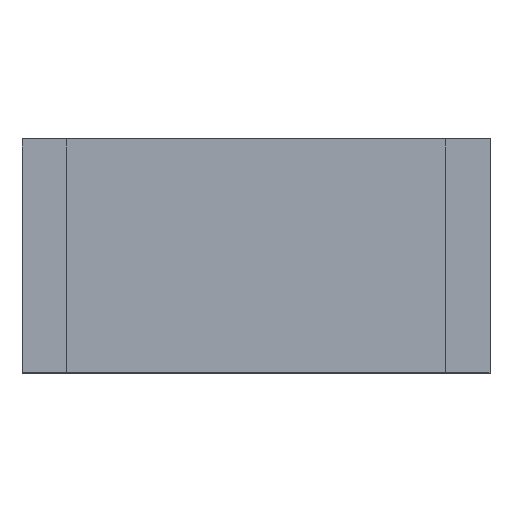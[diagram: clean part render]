
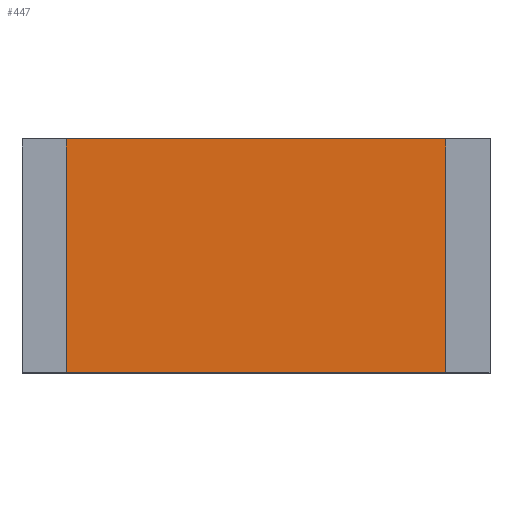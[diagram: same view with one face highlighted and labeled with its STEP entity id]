
A CAD part, top view. The second image highlights one B-rep face of the part: STEP entity #447.
In plain terms, the highlighted planar face has unit normal (0, 0, 1).
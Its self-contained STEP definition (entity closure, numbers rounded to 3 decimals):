
#29=FACE_OUTER_BOUND('',#55,.T.);
#55=EDGE_LOOP('',(#339,#340,#341,#342));
#95=LINE('',#679,#155);
#96=LINE('',#681,#156);
#97=LINE('',#683,#157);
#98=LINE('',#684,#158);
#155=VECTOR('',#559,10.);
#156=VECTOR('',#560,10.);
#157=VECTOR('',#561,10.);
#158=VECTOR('',#562,10.);
#207=VERTEX_POINT('',#677);
#208=VERTEX_POINT('',#678);
#209=VERTEX_POINT('',#680);
#210=VERTEX_POINT('',#682);
#255=EDGE_CURVE('',#207,#208,#95,.T.);
#256=EDGE_CURVE('',#209,#207,#96,.T.);
#257=EDGE_CURVE('',#210,#209,#97,.T.);
#258=EDGE_CURVE('',#208,#210,#98,.T.);
#339=ORIENTED_EDGE('',*,*,#255,.F.);
#340=ORIENTED_EDGE('',*,*,#256,.F.);
#341=ORIENTED_EDGE('',*,*,#257,.F.);
#342=ORIENTED_EDGE('',*,*,#258,.F.);
#421=PLANE('',#495);
#447=ADVANCED_FACE('',(#29),#421,.T.);
#495=AXIS2_PLACEMENT_3D('',#676,#557,#558);
#557=DIRECTION('center_axis',(0.,0.,1.));
#558=DIRECTION('ref_axis',(1.,0.,0.));
#559=DIRECTION('',(1.,0.,0.));
#560=DIRECTION('',(0.,1.,0.));
#561=DIRECTION('',(-1.,0.,0.));
#562=DIRECTION('',(0.,-1.,0.));
#676=CARTESIAN_POINT('Origin',(2.535,-0.001,0.39));
#677=CARTESIAN_POINT('',(0.,2.54,0.39));
#678=CARTESIAN_POINT('',(5.07,2.54,0.39));
#679=CARTESIAN_POINT('',(0.,2.54,0.39));
#680=CARTESIAN_POINT('',(0.,0.,0.39));
#681=CARTESIAN_POINT('',(0.,0.,0.39));
#682=CARTESIAN_POINT('',(5.07,0.,0.39));
#683=CARTESIAN_POINT('',(5.07,0.,0.39));
#684=CARTESIAN_POINT('',(5.07,2.54,0.39));
